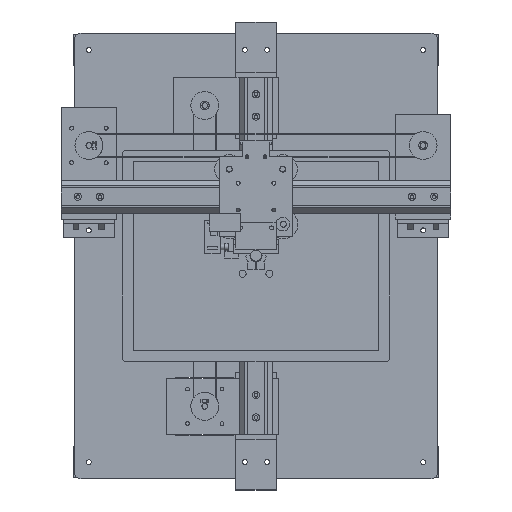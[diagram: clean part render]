
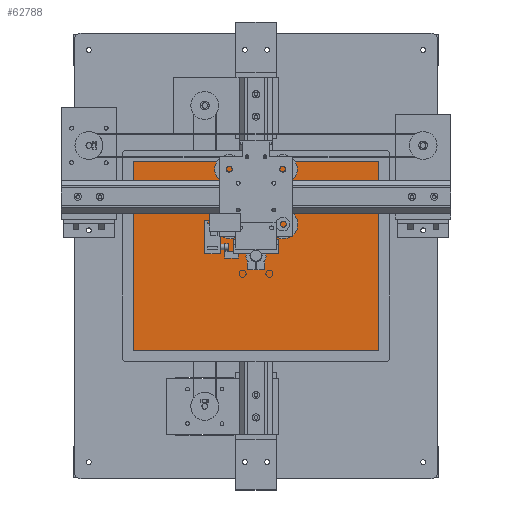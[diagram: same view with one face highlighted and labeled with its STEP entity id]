
A CAD part, top view. The second image highlights one B-rep face of the part: STEP entity #62788.
In plain terms, the highlighted planar face has unit normal (0, 0, 1).
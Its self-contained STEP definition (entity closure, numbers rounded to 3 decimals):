
#62474 = VERTEX_POINT('',#62475);
#62475 = CARTESIAN_POINT('',(-110.,-85.,100.19));
#62482 = PLANE('',#62483);
#62483 = AXIS2_PLACEMENT_3D('',#62484,#62485,#62486);
#62484 = CARTESIAN_POINT('',(-110.,-85.,100.01));
#62485 = DIRECTION('',(1.,0.,0.));
#62486 = DIRECTION('',(0.,0.,1.));
#62494 = PLANE('',#62495);
#62495 = AXIS2_PLACEMENT_3D('',#62496,#62497,#62498);
#62496 = CARTESIAN_POINT('',(-110.,-85.,100.01));
#62497 = DIRECTION('',(0.,1.,0.));
#62498 = DIRECTION('',(0.,0.,1.));
#62535 = VERTEX_POINT('',#62536);
#62536 = CARTESIAN_POINT('',(-110.,85.,100.19));
#62550 = PLANE('',#62551);
#62551 = AXIS2_PLACEMENT_3D('',#62552,#62553,#62554);
#62552 = CARTESIAN_POINT('',(-110.,85.,100.01));
#62553 = DIRECTION('',(0.,1.,0.));
#62554 = DIRECTION('',(0.,0.,1.));
#62562 = EDGE_CURVE('',#62474,#62535,#62563,.T.);
#62563 = SURFACE_CURVE('',#62564,(#62568,#62575),.PCURVE_S1.);
#62564 = LINE('',#62565,#62566);
#62565 = CARTESIAN_POINT('',(-110.,-85.,100.19));
#62566 = VECTOR('',#62567,1.);
#62567 = DIRECTION('',(0.,1.,0.));
#62568 = PCURVE('',#62482,#62569);
#62569 = DEFINITIONAL_REPRESENTATION('',(#62570),#62574);
#62570 = LINE('',#62571,#62572);
#62571 = CARTESIAN_POINT('',(0.18,0.));
#62572 = VECTOR('',#62573,1.);
#62573 = DIRECTION('',(0.,-1.));
#62574 = ( GEOMETRIC_REPRESENTATION_CONTEXT(2) 
PARAMETRIC_REPRESENTATION_CONTEXT() REPRESENTATION_CONTEXT('2D SPACE',''
  ) );
#62575 = PCURVE('',#62576,#62581);
#62576 = PLANE('',#62577);
#62577 = AXIS2_PLACEMENT_3D('',#62578,#62579,#62580);
#62578 = CARTESIAN_POINT('',(-110.,-85.,100.19));
#62579 = DIRECTION('',(0.,0.,1.));
#62580 = DIRECTION('',(1.,0.,0.));
#62581 = DEFINITIONAL_REPRESENTATION('',(#62582),#62586);
#62582 = LINE('',#62583,#62584);
#62583 = CARTESIAN_POINT('',(0.,0.));
#62584 = VECTOR('',#62585,1.);
#62585 = DIRECTION('',(0.,1.));
#62586 = ( GEOMETRIC_REPRESENTATION_CONTEXT(2) 
PARAMETRIC_REPRESENTATION_CONTEXT() REPRESENTATION_CONTEXT('2D SPACE',''
  ) );
#62594 = VERTEX_POINT('',#62595);
#62595 = CARTESIAN_POINT('',(110.,-85.,100.19));
#62602 = PLANE('',#62603);
#62603 = AXIS2_PLACEMENT_3D('',#62604,#62605,#62606);
#62604 = CARTESIAN_POINT('',(110.,-85.,100.01));
#62605 = DIRECTION('',(1.,0.,0.));
#62606 = DIRECTION('',(0.,0.,1.));
#62645 = VERTEX_POINT('',#62646);
#62646 = CARTESIAN_POINT('',(110.,85.,100.19));
#62667 = EDGE_CURVE('',#62594,#62645,#62668,.T.);
#62668 = SURFACE_CURVE('',#62669,(#62673,#62680),.PCURVE_S1.);
#62669 = LINE('',#62670,#62671);
#62670 = CARTESIAN_POINT('',(110.,-85.,100.19));
#62671 = VECTOR('',#62672,1.);
#62672 = DIRECTION('',(0.,1.,0.));
#62673 = PCURVE('',#62602,#62674);
#62674 = DEFINITIONAL_REPRESENTATION('',(#62675),#62679);
#62675 = LINE('',#62676,#62677);
#62676 = CARTESIAN_POINT('',(0.18,0.));
#62677 = VECTOR('',#62678,1.);
#62678 = DIRECTION('',(0.,-1.));
#62679 = ( GEOMETRIC_REPRESENTATION_CONTEXT(2) 
PARAMETRIC_REPRESENTATION_CONTEXT() REPRESENTATION_CONTEXT('2D SPACE',''
  ) );
#62680 = PCURVE('',#62576,#62681);
#62681 = DEFINITIONAL_REPRESENTATION('',(#62682),#62686);
#62682 = LINE('',#62683,#62684);
#62683 = CARTESIAN_POINT('',(220.,0.));
#62684 = VECTOR('',#62685,1.);
#62685 = DIRECTION('',(0.,1.));
#62686 = ( GEOMETRIC_REPRESENTATION_CONTEXT(2) 
PARAMETRIC_REPRESENTATION_CONTEXT() REPRESENTATION_CONTEXT('2D SPACE',''
  ) );
#62713 = EDGE_CURVE('',#62474,#62594,#62714,.T.);
#62714 = SURFACE_CURVE('',#62715,(#62719,#62726),.PCURVE_S1.);
#62715 = LINE('',#62716,#62717);
#62716 = CARTESIAN_POINT('',(-110.,-85.,100.19));
#62717 = VECTOR('',#62718,1.);
#62718 = DIRECTION('',(1.,0.,0.));
#62719 = PCURVE('',#62494,#62720);
#62720 = DEFINITIONAL_REPRESENTATION('',(#62721),#62725);
#62721 = LINE('',#62722,#62723);
#62722 = CARTESIAN_POINT('',(0.18,0.));
#62723 = VECTOR('',#62724,1.);
#62724 = DIRECTION('',(0.,1.));
#62725 = ( GEOMETRIC_REPRESENTATION_CONTEXT(2) 
PARAMETRIC_REPRESENTATION_CONTEXT() REPRESENTATION_CONTEXT('2D SPACE',''
  ) );
#62726 = PCURVE('',#62576,#62727);
#62727 = DEFINITIONAL_REPRESENTATION('',(#62728),#62732);
#62728 = LINE('',#62729,#62730);
#62729 = CARTESIAN_POINT('',(0.,0.));
#62730 = VECTOR('',#62731,1.);
#62731 = DIRECTION('',(1.,0.));
#62732 = ( GEOMETRIC_REPRESENTATION_CONTEXT(2) 
PARAMETRIC_REPRESENTATION_CONTEXT() REPRESENTATION_CONTEXT('2D SPACE',''
  ) );
#62760 = EDGE_CURVE('',#62535,#62645,#62761,.T.);
#62761 = SURFACE_CURVE('',#62762,(#62766,#62773),.PCURVE_S1.);
#62762 = LINE('',#62763,#62764);
#62763 = CARTESIAN_POINT('',(-110.,85.,100.19));
#62764 = VECTOR('',#62765,1.);
#62765 = DIRECTION('',(1.,0.,0.));
#62766 = PCURVE('',#62550,#62767);
#62767 = DEFINITIONAL_REPRESENTATION('',(#62768),#62772);
#62768 = LINE('',#62769,#62770);
#62769 = CARTESIAN_POINT('',(0.18,0.));
#62770 = VECTOR('',#62771,1.);
#62771 = DIRECTION('',(0.,1.));
#62772 = ( GEOMETRIC_REPRESENTATION_CONTEXT(2) 
PARAMETRIC_REPRESENTATION_CONTEXT() REPRESENTATION_CONTEXT('2D SPACE',''
  ) );
#62773 = PCURVE('',#62576,#62774);
#62774 = DEFINITIONAL_REPRESENTATION('',(#62775),#62779);
#62775 = LINE('',#62776,#62777);
#62776 = CARTESIAN_POINT('',(0.,170.));
#62777 = VECTOR('',#62778,1.);
#62778 = DIRECTION('',(1.,0.));
#62779 = ( GEOMETRIC_REPRESENTATION_CONTEXT(2) 
PARAMETRIC_REPRESENTATION_CONTEXT() REPRESENTATION_CONTEXT('2D SPACE',''
  ) );
#62788 = ADVANCED_FACE('',(#62789),#62576,.T.);
#62789 = FACE_BOUND('',#62790,.T.);
#62790 = EDGE_LOOP('',(#62791,#62792,#62793,#62794));
#62791 = ORIENTED_EDGE('',*,*,#62562,.F.);
#62792 = ORIENTED_EDGE('',*,*,#62713,.T.);
#62793 = ORIENTED_EDGE('',*,*,#62667,.T.);
#62794 = ORIENTED_EDGE('',*,*,#62760,.F.);
